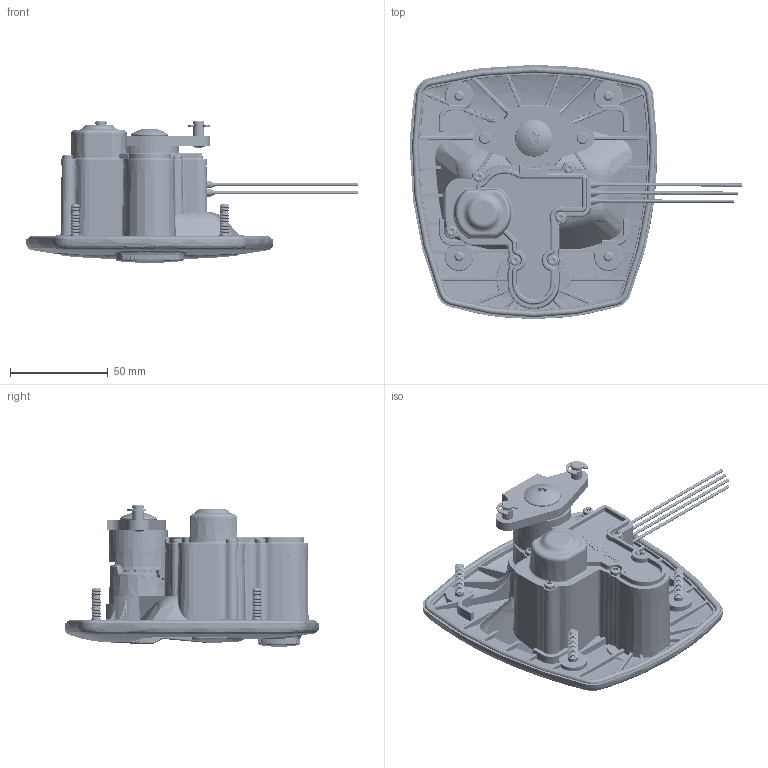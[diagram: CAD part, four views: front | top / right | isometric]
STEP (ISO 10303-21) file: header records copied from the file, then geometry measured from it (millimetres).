
FILE_DESCRIPTION (( 'STEP AP214' ), '1' );
FILE_NAME ('2752-20626110-02_Industrilas.step', '2022-04-12T03:39:06', ( '' ), ( '' ), 'SwSTEP 2.0', 'SolidWorks 2010', '' );
FILE_SCHEMA (( 'AUTOMOTIVE_DESIGN' ));
Length unit declared in the file: millimetre
Products named in the file (37): 00146952-1-1; 00125059(PurPac)-1-1; 00130713-1-1; 00007187(Default-(ejnyckel))-1-1; 00003160-1-1; Cylinder_751-1; 00003163-1-1; 00003162-1-1; 00157446(Cables_only)-1-1; 00109503-1-1; 00144636(5 B Straight)-1-1; 00144636(6 G Straight)-1-1; 00144636(3 Y Straight)-1-1; 00144636(4 Y Straight)-1-1; 00144636(1 W Straight)-1-1; 00144636(2 W Straight)-1-1; 275020-14s5400-1-1; 275020-14S5400-1-1; 052087-5(NITAD)-3; 00124989(Purpack)-1-1; 00124954(Default)-1-1; 00157372-1-1; 00086199-1-1; 297001-1-1; 00035587-1-1; 275020-9(275020-9)-1-1; 275020-8(Default)-1-1; 297017-1-1; 00120601(Syrafast)-1-1; 00127963-1-1; 00127962(Default)-1-1; 275020-18-1-1; 00130449-1-1; 062190-3; 00129746-1-1; 00129950(Vector 3C 275202-50-002010); 2752-20626110-02_Industrilas
Assembly tree (51 placements, depth 3):
  2752-20626110-02_Industrilas
    00146952-1-1
      00125059(PurPac)-1-1
      00130713-1-1  x4
    00157372-1-1  x6
    062190-3  x2
    00127963-1-1
    00127962(Default)-1-1
    297017-1-1
    275020-18-1-1
    00035587-1-1
    275020-9(275020-9)-1-1
    00086199-1-1
    00129950(Vector 3C 275202-50-002010)
    00007187(Default-(ejnyckel))-1-1
      00003162-1-1  x6
      00003163-1-1
      Cylinder_751-1
      00003160-1-1
    00157446(Cables_only)-1-1
      00144636(3 Y Straight)-1-1
      00144636(1 W Straight)-1-1
      00144636(6 G Straight)-1-1
      00144636(2 W Straight)-1-1
      00144636(5 B Straight)-1-1
      00144636(4 Y Straight)-1-1
      00109503-1-1
    00124954(Default)-1-1
    297001-1-1
    00130449-1-1
    275020-8(Default)-1-1
    00124989(Purpack)-1-1
    00129746-1-1
    275020-14s5400-1-1
      275020-14S5400-1-1
      052087-5(NITAD)-3  x2
    00120601(Syrafast)-1-1
Bounding box: 169.72 x 130 x 72.35 mm (x, y, z)
Volume: 184876 mm3; surface area: 128057.6 mm2
Topology: 47 solids, 47 shells, 8362 faces, 21706 edges, 13461 vertices
Faces by surface type: plane 2710, cylinder 2116, bspline 1638, cone 966, torus 593, sphere 339
Entity records: 219676 total; most frequent: CARTESIAN_POINT 93998, ORIENTED_EDGE 26848, DIRECTION 23302, EDGE_CURVE 13424, AXIS2_PLACEMENT_3D 9356, VERTEX_POINT 8196, EDGE_LOOP 5616, FACE_OUTER_BOUND 5423
